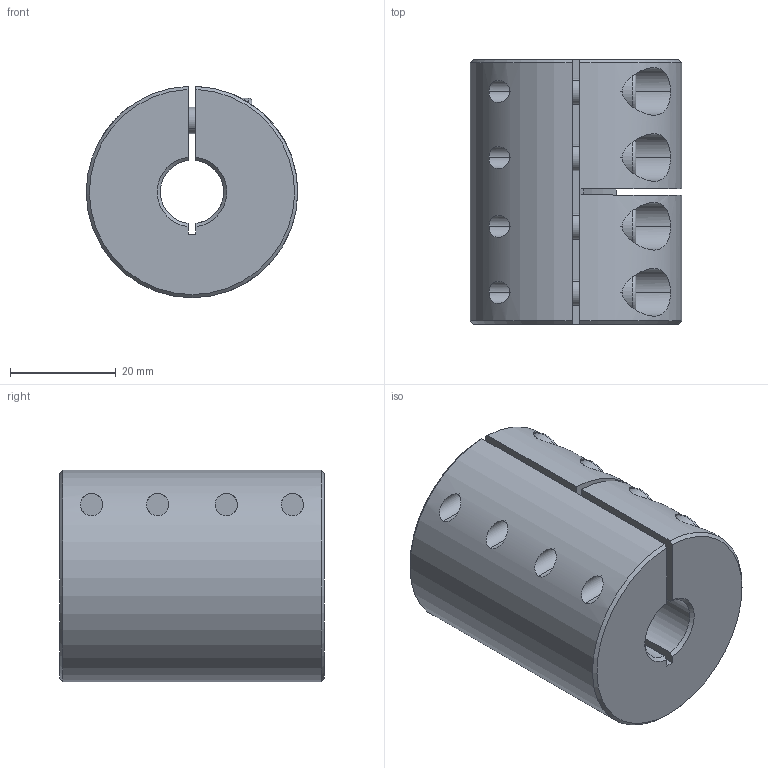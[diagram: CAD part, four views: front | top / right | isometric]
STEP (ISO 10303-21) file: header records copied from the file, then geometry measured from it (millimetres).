
FILE_DESCRIPTION (( 'STEP AP214' ), '1' );
FILE_NAME ('LL-B-D40L50-12-12½¨Ä£.STEP', '2022-07-22T00:21:28', ( '' ), ( '' ), 'SwSTEP 2.0', 'SolidWorks 2022', '' );
FILE_SCHEMA (( 'AUTOMOTIVE_DESIGN' ));
Length unit declared in the file: millimetre
Products named in the file (1): LL-B-D40L50-12-12膘耀
Bounding box: 40 x 50 x 39.99 mm (x, y, z)
Volume: 53898 mm3; surface area: 15341.7 mm2
Topology: 1 solids, 1 shells, 178 faces, 451 edges, 283 vertices
Faces by surface type: plane 86, cylinder 69, cone 15, torus 8
Entity records: 5878 total; most frequent: CARTESIAN_POINT 1501, DIRECTION 946, ORIENTED_EDGE 886, EDGE_CURVE 443, AXIS2_PLACEMENT_3D 368, VERTEX_POINT 283, LINE 210, VECTOR 210
